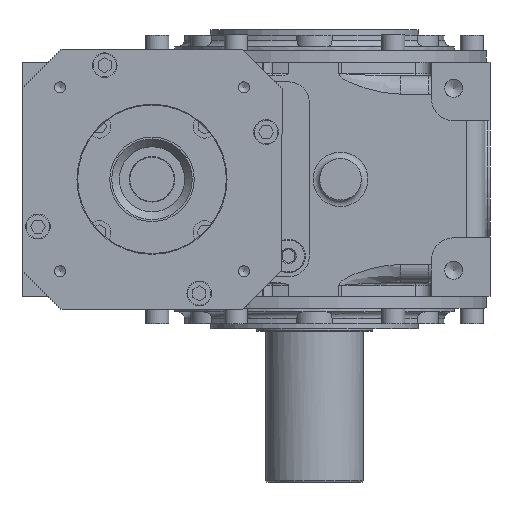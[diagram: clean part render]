
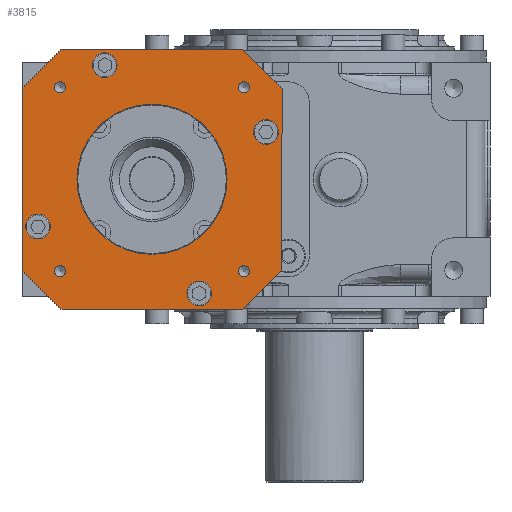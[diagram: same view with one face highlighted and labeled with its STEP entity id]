
A CAD part, front view. The second image highlights one B-rep face of the part: STEP entity #3815.
In plain terms, the highlighted planar face has unit normal (0, -1, 0).
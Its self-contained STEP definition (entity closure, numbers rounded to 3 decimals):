
#3815 = ADVANCED_FACE( '', ( #8185, #8186, #8187, #8188, #8189, #8190, #8191, #8192, #8193, #8194 ), #8195, .T. );
#8185 = FACE_BOUND( '', #16716, .T. );
#8186 = FACE_BOUND( '', #16717, .T. );
#8187 = FACE_BOUND( '', #16718, .T. );
#8188 = FACE_BOUND( '', #16719, .T. );
#8189 = FACE_BOUND( '', #16720, .T. );
#8190 = FACE_BOUND( '', #16721, .T. );
#8191 = FACE_BOUND( '', #16722, .T. );
#8192 = FACE_BOUND( '', #16723, .T. );
#8193 = FACE_BOUND( '', #16724, .T. );
#8194 = FACE_OUTER_BOUND( '', #16725, .T. );
#8195 = PLANE( '', #16726 );
#16716 = EDGE_LOOP( '', ( #29438 ) );
#16717 = EDGE_LOOP( '', ( #29439 ) );
#16718 = EDGE_LOOP( '', ( #29440 ) );
#16719 = EDGE_LOOP( '', ( #29441 ) );
#16720 = EDGE_LOOP( '', ( #29442 ) );
#16721 = EDGE_LOOP( '', ( #29443 ) );
#16722 = EDGE_LOOP( '', ( #29444 ) );
#16723 = EDGE_LOOP( '', ( #29445 ) );
#16724 = EDGE_LOOP( '', ( #29446 ) );
#16725 = EDGE_LOOP( '', ( #29447, #29448, #29449, #29450, #29451, #29452, #29453, #29454 ) );
#16726 = AXIS2_PLACEMENT_3D( '', #29455, #29456, #29457 );
#29438 = ORIENTED_EDGE( '', *, *, #33784, .T. );
#29439 = ORIENTED_EDGE( '', *, *, #33785, .T. );
#29440 = ORIENTED_EDGE( '', *, *, #33786, .T. );
#29441 = ORIENTED_EDGE( '', *, *, #33787, .T. );
#29442 = ORIENTED_EDGE( '', *, *, #33788, .T. );
#29443 = ORIENTED_EDGE( '', *, *, #33789, .T. );
#29444 = ORIENTED_EDGE( '', *, *, #33790, .T. );
#29445 = ORIENTED_EDGE( '', *, *, #33791, .T. );
#29446 = ORIENTED_EDGE( '', *, *, #33792, .T. );
#29447 = ORIENTED_EDGE( '', *, *, #33793, .T. );
#29448 = ORIENTED_EDGE( '', *, *, #33794, .T. );
#29449 = ORIENTED_EDGE( '', *, *, #33795, .T. );
#29450 = ORIENTED_EDGE( '', *, *, #33796, .T. );
#29451 = ORIENTED_EDGE( '', *, *, #33797, .T. );
#29452 = ORIENTED_EDGE( '', *, *, #33798, .T. );
#29453 = ORIENTED_EDGE( '', *, *, #33799, .T. );
#29454 = ORIENTED_EDGE( '', *, *, #33800, .T. );
#29455 = CARTESIAN_POINT( '', ( -182.15, -287., -90. ) );
#29456 = DIRECTION( '', ( 0., -1., 0. ) );
#29457 = DIRECTION( '', ( 0., 0., 1. ) );
#33784 = EDGE_CURVE( '', #40103, #40103, #40104, .F. );
#33785 = EDGE_CURVE( '', #40105, #40105, #40106, .T. );
#33786 = EDGE_CURVE( '', #40107, #40107, #40108, .T. );
#33787 = EDGE_CURVE( '', #40109, #40109, #40110, .T. );
#33788 = EDGE_CURVE( '', #40111, #40111, #40112, .T. );
#33789 = EDGE_CURVE( '', #40113, #40113, #40114, .T. );
#33790 = EDGE_CURVE( '', #40115, #40115, #40116, .T. );
#33791 = EDGE_CURVE( '', #40117, #40117, #40118, .T. );
#33792 = EDGE_CURVE( '', #40119, #40119, #40120, .T. );
#33793 = EDGE_CURVE( '', #40121, #40122, #40123, .T. );
#33794 = EDGE_CURVE( '', #40122, #40124, #40125, .F. );
#33795 = EDGE_CURVE( '', #40124, #40126, #40127, .T. );
#33796 = EDGE_CURVE( '', #40126, #40128, #40129, .F. );
#33797 = EDGE_CURVE( '', #40128, #40130, #40131, .T. );
#33798 = EDGE_CURVE( '', #40130, #40132, #40133, .F. );
#33799 = EDGE_CURVE( '', #40132, #40134, #40135, .T. );
#33800 = EDGE_CURVE( '', #40134, #40121, #40136, .F. );
#40103 = VERTEX_POINT( '', #54799 );
#40104 = CIRCLE( '', #54800, 57.727 );
#40105 = VERTEX_POINT( '', #54801 );
#40106 = CIRCLE( '', #54802, 4.25 );
#40107 = VERTEX_POINT( '', #54803 );
#40108 = CIRCLE( '', #54804, 4.25 );
#40109 = VERTEX_POINT( '', #54805 );
#40110 = CIRCLE( '', #54806, 4.25 );
#40111 = VERTEX_POINT( '', #54807 );
#40112 = CIRCLE( '', #54808, 4.25 );
#40113 = VERTEX_POINT( '', #54809 );
#40114 = CIRCLE( '', #54810, 9.5 );
#40115 = VERTEX_POINT( '', #54811 );
#40116 = CIRCLE( '', #54812, 9.5 );
#40117 = VERTEX_POINT( '', #54813 );
#40118 = CIRCLE( '', #54814, 9.5 );
#40119 = VERTEX_POINT( '', #54815 );
#40120 = CIRCLE( '', #54816, 9.5 );
#40121 = VERTEX_POINT( '', #54817 );
#40122 = VERTEX_POINT( '', #54818 );
#40123 = LINE( '', #54819, #54820 );
#40124 = VERTEX_POINT( '', #54821 );
#40125 = LINE( '', #54822, #54823 );
#40126 = VERTEX_POINT( '', #54824 );
#40127 = LINE( '', #54825, #54826 );
#40128 = VERTEX_POINT( '', #54827 );
#40129 = LINE( '', #54828, #54829 );
#40130 = VERTEX_POINT( '', #54830 );
#40131 = LINE( '', #54831, #54832 );
#40132 = VERTEX_POINT( '', #54833 );
#40133 = LINE( '', #54834, #54835 );
#40134 = VERTEX_POINT( '', #54836 );
#40135 = LINE( '', #54837, #54838 );
#40136 = LINE( '', #54839, #54840 );
#54799 = CARTESIAN_POINT( '', ( -125., -287., -32.273 ) );
#54800 = AXIS2_PLACEMENT_3D( '', #62118, #62119, #62120 );
#54801 = CARTESIAN_POINT( '', ( -191.461, -287., -19.289 ) );
#54802 = AXIS2_PLACEMENT_3D( '', #62121, #62122, #62123 );
#54803 = CARTESIAN_POINT( '', ( -54.289, -287., -23.539 ) );
#54804 = AXIS2_PLACEMENT_3D( '', #62124, #62125, #62126 );
#54805 = CARTESIAN_POINT( '', ( -58.539, -287., -160.711 ) );
#54806 = AXIS2_PLACEMENT_3D( '', #62127, #62128, #62129 );
#54807 = CARTESIAN_POINT( '', ( -195.711, -287., -156.461 ) );
#54808 = AXIS2_PLACEMENT_3D( '', #62130, #62131, #62132 );
#54809 = CARTESIAN_POINT( '', ( -79.145, -287., -177.769 ) );
#54810 = AXIS2_PLACEMENT_3D( '', #62133, #62134, #62135 );
#54811 = CARTESIAN_POINT( '', ( -37.231, -287., -44.145 ) );
#54812 = AXIS2_PLACEMENT_3D( '', #62136, #62137, #62138 );
#54813 = CARTESIAN_POINT( '', ( -170.855, -287., -2.231 ) );
#54814 = AXIS2_PLACEMENT_3D( '', #62139, #62140, #62141 );
#54815 = CARTESIAN_POINT( '', ( -212.769, -287., -135.855 ) );
#54816 = AXIS2_PLACEMENT_3D( '', #62142, #62143, #62144 );
#54817 = CARTESIAN_POINT( '', ( -55., -287., 10. ) );
#54818 = CARTESIAN_POINT( '', ( -195., -287., 10. ) );
#54819 = CARTESIAN_POINT( '', ( -25., -287., 10. ) );
#54820 = VECTOR( '', #62145, 1000. );
#54821 = CARTESIAN_POINT( '', ( -225., -287., -20. ) );
#54822 = CARTESIAN_POINT( '', ( -238.575, -287., -33.575 ) );
#54823 = VECTOR( '', #62146, 1000. );
#54824 = CARTESIAN_POINT( '', ( -225., -287., -160. ) );
#54825 = CARTESIAN_POINT( '', ( -225., -287., 10. ) );
#54826 = VECTOR( '', #62147, 1000. );
#54827 = CARTESIAN_POINT( '', ( -195., -287., -190. ) );
#54828 = CARTESIAN_POINT( '', ( -238.575, -287., -146.425 ) );
#54829 = VECTOR( '', #62148, 1000. );
#54830 = CARTESIAN_POINT( '', ( -55., -287., -190. ) );
#54831 = CARTESIAN_POINT( '', ( -225., -287., -190. ) );
#54832 = VECTOR( '', #62149, 1000. );
#54833 = CARTESIAN_POINT( '', ( -25., -287., -160. ) );
#54834 = CARTESIAN_POINT( '', ( -68.575, -287., -203.575 ) );
#54835 = VECTOR( '', #62150, 1000. );
#54836 = CARTESIAN_POINT( '', ( -25., -287., -20. ) );
#54837 = CARTESIAN_POINT( '', ( -25., -287., -190. ) );
#54838 = VECTOR( '', #62151, 1000. );
#54839 = CARTESIAN_POINT( '', ( -68.575, -287., 23.575 ) );
#54840 = VECTOR( '', #62152, 1000. );
#62118 = CARTESIAN_POINT( '', ( -125., -287., -90. ) );
#62119 = DIRECTION( '', ( 0., -1., 0. ) );
#62120 = DIRECTION( '', ( 0., 0., 1. ) );
#62121 = CARTESIAN_POINT( '', ( -195.711, -287., -19.289 ) );
#62122 = DIRECTION( '', ( 0., 1., 0. ) );
#62123 = DIRECTION( '', ( 1., 0., 0. ) );
#62124 = CARTESIAN_POINT( '', ( -54.289, -287., -19.289 ) );
#62125 = DIRECTION( '', ( 0., 1., 0. ) );
#62126 = DIRECTION( '', ( 0., 0., -1. ) );
#62127 = CARTESIAN_POINT( '', ( -54.289, -287., -160.711 ) );
#62128 = DIRECTION( '', ( 0., 1., 0. ) );
#62129 = DIRECTION( '', ( -1., 0., 0. ) );
#62130 = CARTESIAN_POINT( '', ( -195.711, -287., -160.711 ) );
#62131 = DIRECTION( '', ( 0., 1., 0. ) );
#62132 = DIRECTION( '', ( 0., 0., 1. ) );
#62133 = CARTESIAN_POINT( '', ( -88.645, -287., -177.769 ) );
#62134 = DIRECTION( '', ( 0., 1., 0. ) );
#62135 = DIRECTION( '', ( 1., 0., 0. ) );
#62136 = CARTESIAN_POINT( '', ( -37.231, -287., -53.645 ) );
#62137 = DIRECTION( '', ( 0., 1., 0. ) );
#62138 = DIRECTION( '', ( 0., 0., 1. ) );
#62139 = CARTESIAN_POINT( '', ( -161.355, -287., -2.231 ) );
#62140 = DIRECTION( '', ( 0., 1., 0. ) );
#62141 = DIRECTION( '', ( -1., 0., 0. ) );
#62142 = CARTESIAN_POINT( '', ( -212.769, -287., -126.355 ) );
#62143 = DIRECTION( '', ( 0., 1., 0. ) );
#62144 = DIRECTION( '', ( 0., 0., -1. ) );
#62145 = DIRECTION( '', ( -1., 0., 0. ) );
#62146 = DIRECTION( '', ( 0.707, 0., 0.707 ) );
#62147 = DIRECTION( '', ( 0., 0., -1. ) );
#62148 = DIRECTION( '', ( -0.707, 0., 0.707 ) );
#62149 = DIRECTION( '', ( 1., 0., 0. ) );
#62150 = DIRECTION( '', ( -0.707, 0., -0.707 ) );
#62151 = DIRECTION( '', ( 0., 0., 1. ) );
#62152 = DIRECTION( '', ( 0.707, 0., -0.707 ) );
